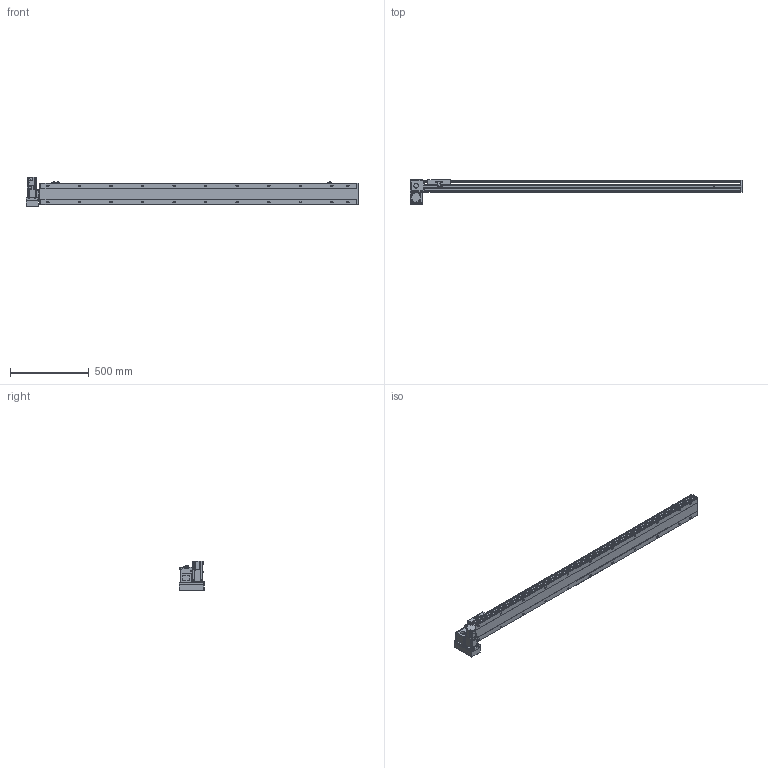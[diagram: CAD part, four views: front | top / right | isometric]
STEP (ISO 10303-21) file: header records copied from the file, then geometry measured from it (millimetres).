
FILE_DESCRIPTION(/* description */ ('STEP AP214'),/* implementation_level */ '2;1');
FILE_NAME(/* name */ 'PBS140-P40-S1750-LD-T40-C1-N(0)',/* time_stamp */ '2022-06-06T07:55:48+02:00',/* author */ ('License CC BY-ND 4.0'),/* organization */ ('CADENAS'),/* preprocessor_version */ 'ST-DEVELOPER v18.102',/* originating_system */ 'PARTsolutions',/* authorisation */ ' ');
FILE_SCHEMA (('AUTOMOTIVE_DESIGN {1 0 10303 214 3 1 1}'));
Length unit declared in the file: millimetre
Products named in the file (7): PBS140-P40-S1750-LD-T40-C1-N(0); PBS140_sensor; PBS140_plant; PBS140_sliser; T40-p1; PBS140T-LD_motors; PBS140-S1750()_body
Assembly tree (8 placements, depth 2):
  PBS140-P40-S1750-LD-T40-C1-N(0)
    PBS140_sensor  x3
    PBS140_plant
    PBS140_sliser
    T40-p1
    PBS140T-LD_motors
    PBS140-S1750()_body
Bounding box: 2104 x 162 x 189.7 mm (x, y, z)
Volume: 9656122.3 mm3; surface area: 1660106.5 mm2
Topology: 8 solids, 8 shells, 1123 faces, 2956 edges, 1931 vertices
Faces by surface type: plane 710, cylinder 355, cone 48, sphere 8, torus 2
Full cylindrical faces by diameter (mm): 3.242 x4, 4 x2, 4.134 x4, 4.4 x8, 4.5 x2, 4.8 x4, 4.917 x30, 5.5 x7, 6 x2, 7 x24, 7.5 x8, 8 x12, 8.5 x4, 10.5 x22, 14 x1, 30 x2, 50 x2
Entity records: 32019 total; most frequent: CARTESIAN_POINT 6001, DIRECTION 5407, ORIENTED_EDGE 5092, EDGE_CURVE 2546, AXIS2_PLACEMENT_3D 1897, VERTEX_POINT 1773, LINE 1613, VECTOR 1613
